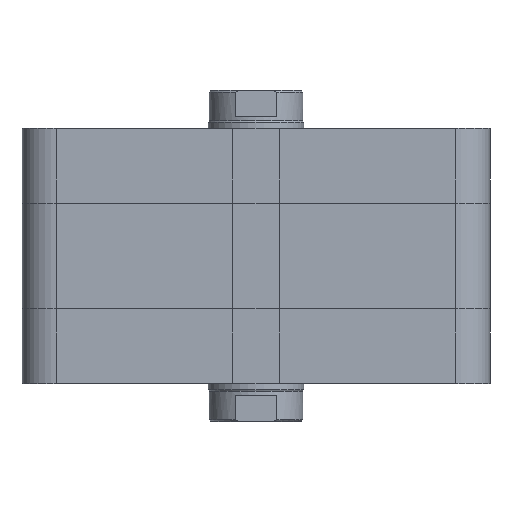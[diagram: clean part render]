
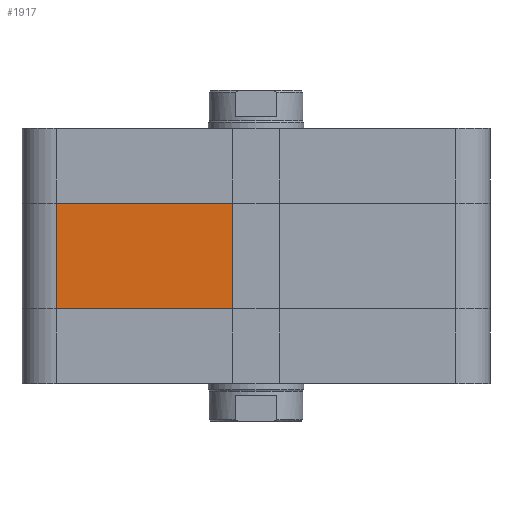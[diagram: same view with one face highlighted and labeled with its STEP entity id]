
A CAD part, front view. The second image highlights one B-rep face of the part: STEP entity #1917.
In plain terms, the highlighted planar face has unit normal (0, -1, 0).
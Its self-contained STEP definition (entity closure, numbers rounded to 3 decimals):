
#1828=CARTESIAN_POINT('',(-52.0,-61.,19.5));
#1829=VERTEX_POINT('',#1828);
#1837=CARTESIAN_POINT('',(-52.0,-61.,47.));
#1838=VERTEX_POINT('',#1837);
#1839=CARTESIAN_POINT('',(-52.0,-61.,19.5));
#1840=DIRECTION('',(0.0,0.0,1.0));
#1841=VECTOR('',#1840,27.5);
#1842=LINE('',#1839,#1841);
#1843=EDGE_CURVE('',#1829,#1838,#1842,.T.);
#1887=CARTESIAN_POINT('',(-6.,-61.,0.0));
#1888=DIRECTION('',(0.0,-1.0,0.0));
#1889=DIRECTION('',(0.0,0.0,-1.0));
#1890=AXIS2_PLACEMENT_3D('',#1887,#1888,#1889);
#1891=PLANE('',#1890);
#1892=CARTESIAN_POINT('',(-6.,-61.,19.5));
#1893=VERTEX_POINT('',#1892);
#1894=CARTESIAN_POINT('',(-52.0,-61.,19.5));
#1895=DIRECTION('',(1.0,0.0,0.0));
#1896=VECTOR('',#1895,46.0);
#1897=LINE('',#1894,#1896);
#1898=EDGE_CURVE('',#1829,#1893,#1897,.T.);
#1899=ORIENTED_EDGE('',*,*,#1898,.T.);
#1900=CARTESIAN_POINT('',(-6.,-61.,47.));
#1901=VERTEX_POINT('',#1900);
#1902=CARTESIAN_POINT('',(-6.,-61.,19.5));
#1903=DIRECTION('',(0.0,0.0,1.0));
#1904=VECTOR('',#1903,27.5);
#1905=LINE('',#1902,#1904);
#1906=EDGE_CURVE('',#1893,#1901,#1905,.T.);
#1907=ORIENTED_EDGE('',*,*,#1906,.T.);
#1908=CARTESIAN_POINT('',(-52.0,-61.,47.));
#1909=DIRECTION('',(1.0,0.0,0.0));
#1910=VECTOR('',#1909,46.0);
#1911=LINE('',#1908,#1910);
#1912=EDGE_CURVE('',#1838,#1901,#1911,.T.);
#1913=ORIENTED_EDGE('',*,*,#1912,.F.);
#1914=ORIENTED_EDGE('',*,*,#1843,.F.);
#1915=EDGE_LOOP('',(#1899,#1907,#1913,#1914));
#1916=FACE_OUTER_BOUND('',#1915,.T.);
#1917=ADVANCED_FACE('',(#1916),#1891,.T.);
